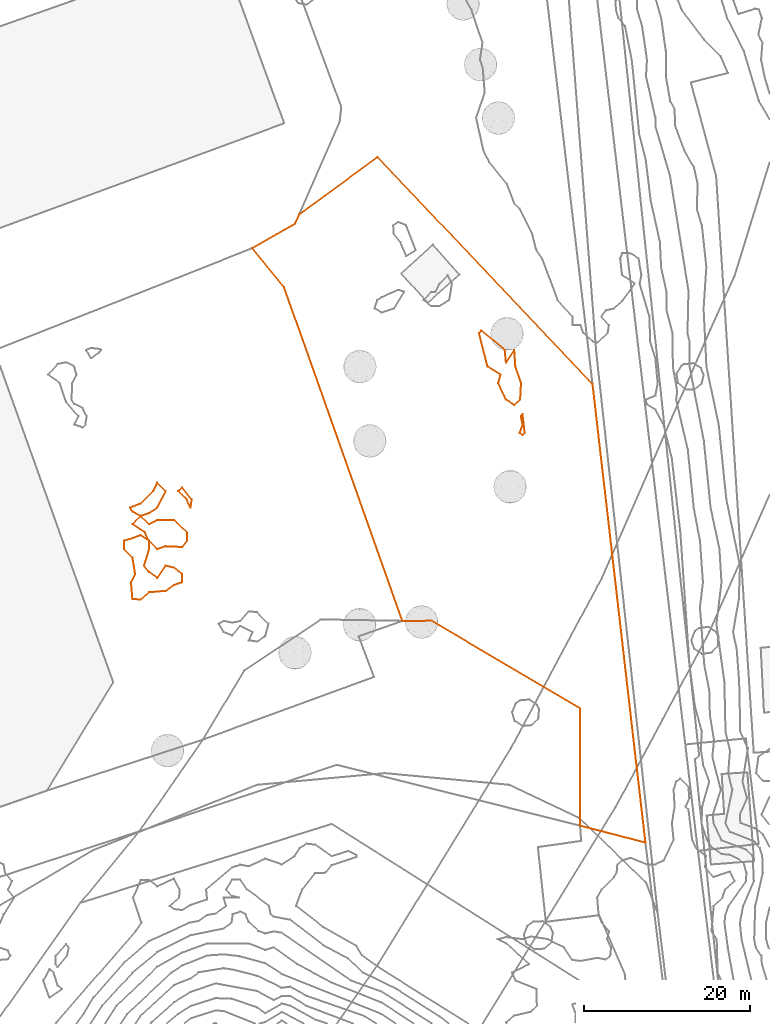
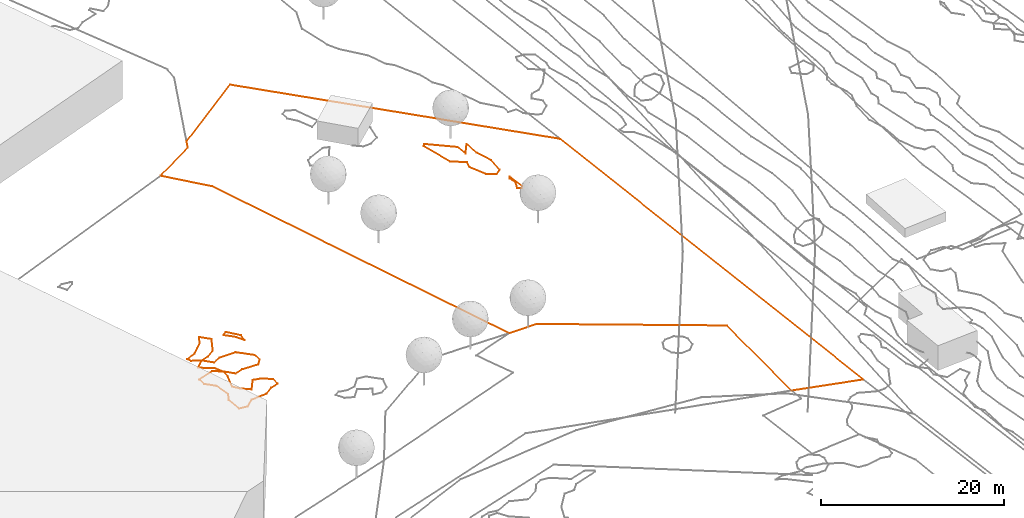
# Not in any storey, part 299 of 419: 7 proxies.
"""IFC2X3 model written with IfcOpenShell, lengths in metres."""

from ifc_helpers import new_model, entity, si_unit, frame, origin_with_axes, place, context, subcontext, project, element, save


model = new_model("IFC2X3")

# Units and contexts
model_context = context("Model", 3, precision=1e-05, world=origin_with_axes())
body_context = subcontext(model_context, "Body", "Model", "MODEL_VIEW")
ifc_project = project(units=[si_unit("AREAUNIT", "SQUARE_METRE"), si_unit("LENGTHUNIT", "METRE")], contexts=[model_context])

# Proxies
proxy_1_placement = place(None, frame((80.5320204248, 907.1476909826, 21.392749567), z_axis=(0.0, 0.0, 1.0), x_axis=(1.0, 0.0, 0.0)))
element("IfcBuildingElementProxy", 1, at=proxy_1_placement, Name="Cadastre 296", ObjectType="NOTDEFINED", context=body_context, shape_type="GeometricCurveSet", body=[
    entity("IfcGeometricCurveSet", [entity("IfcPolyline", [entity("IfcCartesianPoint", [47.37, -71.6200000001, -0.3380442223]), entity("IfcCartesianPoint", [39.5, -69.5800000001, -0.2927931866]), entity("IfcCartesianPoint", [39.5, -55.4500000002, -0.1858299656]), entity("IfcCartesianPoint", [21.58, -44.8899999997, -0.1166769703]), entity("IfcCartesianPoint", [18.09, -44.8999999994, -0.1197940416]), entity("IfcCartesianPoint", [3.8199999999, -4.6600000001, 0.0830499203]), entity("IfcCartesianPoint", [0.0, 0.0, 0.0]), entity("IfcCartesianPoint", [5.1499999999, 2.9500000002, 0.1577896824]), entity("IfcCartesianPoint", [5.64, 4.0600000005, 0.1619477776]), entity("IfcCartesianPoint", [15.11, 10.9900000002, 0.2083703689]), entity("IfcCartesianPoint", [41.0, -16.3600000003, 0.4889507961]), entity("IfcCartesianPoint", [47.37, -71.6200000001, -0.3380442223])])]),
])
proxy_2_placement = place(None, frame((107.8420204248, 896.8976909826, 22.0), z_axis=(0.0, 0.0, 1.0), x_axis=(1.0, 0.0, 0.0)))
element("IfcBuildingElementProxy", 2, at=proxy_2_placement, Name="Contour 22.0 m", ObjectType="NOTDEFINED", context=body_context, shape_type="GeometricCurveSet", body=[
    entity("IfcGeometricCurveSet", [entity("IfcPolyline", [entity("IfcCartesianPoint", [4.9642779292, -8.0, 0.0]), entity("IfcCartesianPoint", [4.25, -8.6249910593, 0.0]), entity("IfcCartesianPoint", [3.2499909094, -8.0, 0.0]), entity("IfcCartesianPoint", [2.3333346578, -6.0, 0.0]), entity("IfcCartesianPoint", [2.5833290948, -5.0, 0.0]), entity("IfcCartesianPoint", [1.0357113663, -4.0, 0.0]), entity("IfcCartesianPoint", [0.0, 0.0, 0.0]), entity("IfcCartesianPoint", [0.25, 0.333333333, 0.0]), entity("IfcCartesianPoint", [3.1166632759, -2.0, 0.0]), entity("IfcCartesianPoint", [3.25, -3.4999750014, 0.0]), entity("IfcCartesianPoint", [4.2500333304, -2.0, 0.0]), entity("IfcCartesianPoint", [4.3833367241, -4.0, 0.0]), entity("IfcCartesianPoint", [5.0681786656, -6.0, 0.0]), entity("IfcCartesianPoint", [4.9642779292, -8.0, 0.0])])]),
])
proxy_3_placement = place(None, frame((112.7348814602, 884.8976909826, 22.0), z_axis=(0.0, 0.0, 1.0), x_axis=(1.0, 0.0, 0.0)))
element("IfcBuildingElementProxy", 3, at=proxy_3_placement, Name="Contour 22.0 m", ObjectType="NOTDEFINED", context=body_context, shape_type="GeometricCurveSet", body=[
    entity("IfcGeometricCurveSet", [entity("IfcPolyline", [entity("IfcCartesianPoint", [0.6202947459, 0.0, 0.0]), entity("IfcCartesianPoint", [0.3571389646, -0.2777760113, 0.0]), entity("IfcCartesianPoint", [0.0, 0.0, 0.0]), entity("IfcCartesianPoint", [0.3571289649, 1.0, 0.0]), entity("IfcCartesianPoint", [0.1571351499, 2.0, 0.0]), entity("IfcCartesianPoint", [0.3571389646, 2.2500059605, 0.0]), entity("IfcCartesianPoint", [0.6202947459, 0.0, 0.0])])]),
])
proxy_4_placement = place(None, frame((71.592045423, 877.8976909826, 21.0), z_axis=(0.0, 0.0, 1.0), x_axis=(1.0, 0.0, 0.0)))
element("IfcBuildingElementProxy", 4, at=proxy_4_placement, Name="Contour 21.0 m", ObjectType="NOTDEFINED", context=body_context, shape_type="GeometricCurveSet", body=[
    entity("IfcGeometricCurveSet", [entity("IfcPolyline", [entity("IfcCartesianPoint", [1.4999750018, -1.9999000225, 0.0]), entity("IfcCartesianPoint", [1.6428360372, -1.0, 0.0]), entity("IfcCartesianPoint", [0.4999750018, 0.4000000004, 0.0]), entity("IfcCartesianPoint", [0.0, 0.0, 0.0]), entity("IfcCartesianPoint", [1.0000249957, -1.0, 0.0]), entity("IfcCartesianPoint", [1.4999750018, -1.9999000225, 0.0])])]),
])
proxy_5_placement = place(None, frame((65.8420204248, 875.8976909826, 21.0), z_axis=(0.0, 0.0, 1.0), x_axis=(1.0, 0.0, 0.0)))
element("IfcBuildingElementProxy", 5, at=proxy_5_placement, Name="Contour 21.0 m", ObjectType="NOTDEFINED", context=body_context, shape_type="GeometricCurveSet", body=[
    entity("IfcGeometricCurveSet", [entity("IfcPolyline", [entity("IfcCartesianPoint", [2.25, -0.666666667, 0.0]), entity("IfcCartesianPoint", [3.2499500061, 0.0, 0.0]), entity("IfcCartesianPoint", [4.2499000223, 2.0, 0.0]), entity("IfcCartesianPoint", [3.25, 2.9999000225, 0.0]), entity("IfcCartesianPoint", [2.7500499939, 2.0, 0.0]), entity("IfcCartesianPoint", [1.25, 0.4999750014, 0.0]), entity("IfcCartesianPoint", [0.0, 0.0, 0.0]), entity("IfcCartesianPoint", [0.25, -0.4999500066, 0.0]), entity("IfcCartesianPoint", [1.25, -0.9999500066, 0.0]), entity("IfcCartesianPoint", [2.25, -0.666666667, 0.0])])]),
])
proxy_6_placement = place(None, frame((66.0921204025, 873.8976909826, 21.0), z_axis=(0.0, 0.0, 1.0), x_axis=(1.0, 0.0, 0.0)))
element("IfcBuildingElementProxy", 6, at=proxy_6_placement, Name="Contour 21.0 m", ObjectType="NOTDEFINED", context=body_context, shape_type="GeometricCurveSet", body=[
    entity("IfcGeometricCurveSet", [entity("IfcPolyline", [entity("IfcCartesianPoint", [5.9999000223, -2.75, 0.0]), entity("IfcCartesianPoint", [6.5999000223, -2.0, 0.0]), entity("IfcCartesianPoint", [6.5713285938, -1.0, 0.0]), entity("IfcCartesianPoint", [4.9999000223, 0.4999500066, 0.0]), entity("IfcCartesianPoint", [2.9999000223, 0.4999500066, 0.0]), entity("IfcCartesianPoint", [1.9999000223, -9.99775e-05, 0.0]), entity("IfcCartesianPoint", [0.9999000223, 0.9999000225, 0.0]), entity("IfcCartesianPoint", [0.0, 0.0, 0.0]), entity("IfcCartesianPoint", [1.4999500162, -1.0, 0.0]), entity("IfcCartesianPoint", [1.9999000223, -1.9999000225, 0.0]), entity("IfcCartesianPoint", [2.9999000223, -2.9999000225, 0.0]), entity("IfcCartesianPoint", [3.9999000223, -2.666666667, 0.0]), entity("IfcCartesianPoint", [5.9999000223, -2.75, 0.0])])]),
])
proxy_7_placement = place(None, frame((65.0920704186, 870.8976909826, 21.0), z_axis=(0.0, 0.0, 1.0), x_axis=(1.0, 0.0, 0.0)))
element("IfcBuildingElementProxy", 7, at=proxy_7_placement, Name="Contour 21.0 m", ObjectType="NOTDEFINED", context=body_context, shape_type="GeometricCurveSet", body=[
    entity("IfcGeometricCurveSet", [entity("IfcPolyline", [entity("IfcCartesianPoint", [1.9999500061, -6.0952398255, 0.0]), entity("IfcCartesianPoint", [2.9999500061, -5.2000038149, 0.0]), entity("IfcCartesianPoint", [4.9999500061, -5.0384623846, 0.0]), entity("IfcCartesianPoint", [5.9999500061, -4.3076968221, 0.0]), entity("IfcCartesianPoint", [6.9999250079, -4.0, 0.0]), entity("IfcCartesianPoint", [6.9999166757, -3.0, 0.0]), entity("IfcCartesianPoint", [5.9999500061, -2.25, 0.0]), entity("IfcCartesianPoint", [4.9999500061, -2.0000333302, 0.0]), entity("IfcCartesianPoint", [3.9999500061, -3.5000499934, 0.0]), entity("IfcCartesianPoint", [2.9999500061, -2.75, 0.0]), entity("IfcCartesianPoint", [2.3999500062, -2.0, 0.0]), entity("IfcCartesianPoint", [2.9999000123, 0.0, 0.0]), entity("IfcCartesianPoint", [2.9999000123, 1.0, 0.0]), entity("IfcCartesianPoint", [1.9999500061, 1.666666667, 0.0]), entity("IfcCartesianPoint", [4.99838e-05, 1.0, 0.0]), entity("IfcCartesianPoint", [0.0, 0.0, 0.0]), entity("IfcCartesianPoint", [1.0, -1.0, 0.0]), entity("IfcCartesianPoint", [1.3332833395, -3.0, 0.0]), entity("IfcCartesianPoint", [0.8332780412, -4.0, 0.0]), entity("IfcCartesianPoint", [0.9999500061, -5.9999000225, 0.0]), entity("IfcCartesianPoint", [1.9999500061, -6.0952398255, 0.0])])]),
])

save(model, "model.ifc")
